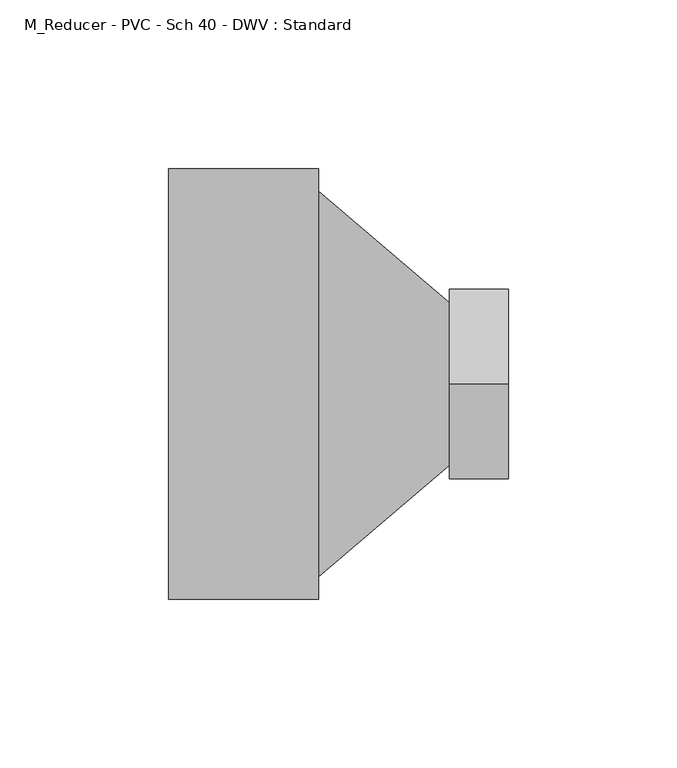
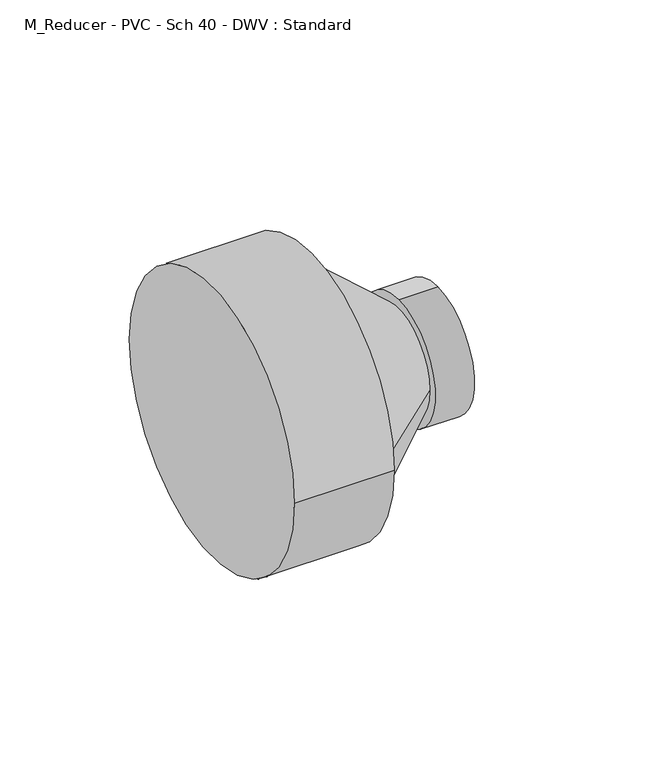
"""IFC4 building model written with IfcOpenShell, lengths in millimetres: pipe fitting geometry, M_Reducer - PVC - Sch 40 - DWV : Standard."""

from ifc_helpers import new_model, si_unit, frame, origin, place, context, project, spatial, polyline, circle_curve, source, transform, mapped, element, save
from ifc_brep_helpers import plane_surface, cylinder_surface, revolved_surface, advanced_brep


def m_reducer_pvc_sch_40_dwv_standard_9acc3786(model_context):
    return source(origin(), model_context, "Body", "AdvancedBrep", [
        advanced_brep(
        [(0.0, -63.754, 0.0), (0.0, 63.754, 0.0), (44.45, -63.754, 0.0), (44.45, 63.754, 0.0), (44.45, 57.15, 0.0), (44.45, -57.15, 0.0), (83.2462938, 24.13, 0.0), (83.2462938, -24.13, 0.0), (83.2462938, 0.0, 28.2829), (83.2462938, 0.0, -28.2829), (100.6960938, 0.0, 28.2829), (100.6960938, 0.0, -28.2829)],
        [
            (0, 1, circle_curve(frame((0.0, 0.0, 0.0), z_axis=(-1.0, 0.0, 0.0), x_axis=(0.0, 1.0, 0.0)), 63.754)),
            (1, 0, circle_curve(frame((0.0, 0.0, 0.0), z_axis=(-1.0, 0.0, 0.0), x_axis=(0.0, 1.0, 0.0)), 63.754)),
            (2, 3, circle_curve(frame((44.45, 0.0, 0.0), z_axis=(1.0, 0.0, 0.0), x_axis=(0.0, 1.0, 0.0)), 63.754)),
            (3, 2, circle_curve(frame((44.45, 0.0, 0.0), z_axis=(1.0, 0.0, 0.0), x_axis=(0.0, 1.0, 0.0)), 63.754)),
            (4, 5, circle_curve(frame((44.45, 0.0, 0.0), z_axis=(-1.0, 0.0, 0.0), x_axis=(0.0, -1.0, 0.0)), 57.15)),
            (5, 4, circle_curve(frame((44.45, 0.0, 0.0), z_axis=(-1.0, 0.0, 0.0), x_axis=(0.0, 1.0, 0.0)), 57.15)),
            (0, 2),
            (3, 1),
            (4, 6),
            (6, 7, circle_curve(frame((83.2462938, 0.0, 0.0), z_axis=(-1.0, 0.0, 0.0), x_axis=(0.0, -1.0, 0.0)), 24.13)),
            (7, 5),
            (7, 6, circle_curve(frame((83.2462938, 0.0, 0.0), z_axis=(-1.0, 0.0, 0.0), x_axis=(0.0, 1.0, 0.0)), 24.13)),
            (8, 9, circle_curve(frame((83.2462938, 0.0, 0.0), z_axis=(-1.0, 0.0, 0.0), x_axis=(0.0, 0.0, -1.0)), 28.2829)),
            (9, 8, circle_curve(frame((83.2462938, 0.0, 0.0), z_axis=(-1.0, 0.0, 0.0), x_axis=(0.0, 0.0, -1.0)), 28.2829)),
            (10, 11, circle_curve(frame((100.6960938, 0.0, 0.0), z_axis=(1.0, 0.0, 0.0), x_axis=(0.0, 0.0, -1.0)), 28.2829)),
            (11, 10, circle_curve(frame((100.6960938, 0.0, 0.0), z_axis=(1.0, 0.0, 0.0), x_axis=(0.0, 0.0, -1.0)), 28.2829)),
            (8, 10),
            (11, 9),
        ],
        [
            plane_surface(frame((0.0, 0.0, 0.0), z_axis=(-1.0, 0.0, 0.0), x_axis=(0.0, 0.0, 1.0))),
            plane_surface(frame((44.45, 0.0, 0.0), z_axis=(1.0, 0.0, 0.0), x_axis=(0.0, 0.0, 1.0))),
            cylinder_surface(frame((0.0, 0.0, 0.0), z_axis=(-1.0, 0.0, 0.0), x_axis=(0.0, 1.0, 0.0)), 63.754),
            revolved_surface(polyline([(83.2462938, 24.129999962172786, 0.0), (44.45, 57.15, 0.0)]), (111.5974315, 0.0, 0.0), (-1.0, 0.0, 0.0)),
            plane_surface(frame((83.2462938, 0.0, 0.0), z_axis=(-1.0, 0.0, 0.0), x_axis=(0.0, 1.0, 0.0))),
            plane_surface(frame((100.6960938, 0.0, 0.0), z_axis=(1.0, 0.0, 0.0), x_axis=(0.0, 1.0, 0.0))),
            cylinder_surface(frame((83.2462938, 0.0, 0.0), z_axis=(-1.0, 0.0, 0.0), x_axis=(0.0, 0.0, -1.0)), 28.2829),
        ],
        [
            (0, [[1, 2]]),
            (1, [[3, 4], [5, 6]]),
            (2, [[-1, 7, -4, 8]]),
            (2, [[-2, -8, -3, -7]]),
            (3, [[9, 10, 11, -5]]),
            (3, [[-9, -6, -11, 12]]),
            (4, [[13, 14], [-10, -12]]),
            (5, [[15, 16]]),
            (6, [[-13, 17, -16, 18]]),
            (6, [[-14, -18, -15, -17]]),
        ],
    ),
    ])


if __name__ == "__main__":
    model = new_model("IFC4")
    model_context = context("Model", 3, world=origin())
    ifc_project = project(units=[si_unit("LENGTHUNIT", "METRE", prefix="MILLI")], contexts=[model_context])
    site = spatial("IfcSite", under=ifc_project)
    building = spatial("IfcBuilding", under=site)
    placement = place(None, origin())
    m_reducer_pvc_sch_40_dwv_standard_shape = m_reducer_pvc_sch_40_dwv_standard_9acc3786(model_context)
    element("IfcPipeFitting", 1, ObjectType="M_Reducer - PVC - Sch 40 - DWV : Standard", at=placement, inside=building, context=model_context, shape_type="MappedRepresentation", body=[
        mapped(m_reducer_pvc_sch_40_dwv_standard_shape, transform((0.0, 0.0, 0.0), x_axis=(1.0, 0.0, 0.0), y_axis=(0.0, 1.0, 0.0), z_axis=(0.0, 0.0, 1.0))),
    ])
    save(model, "model.ifc")
